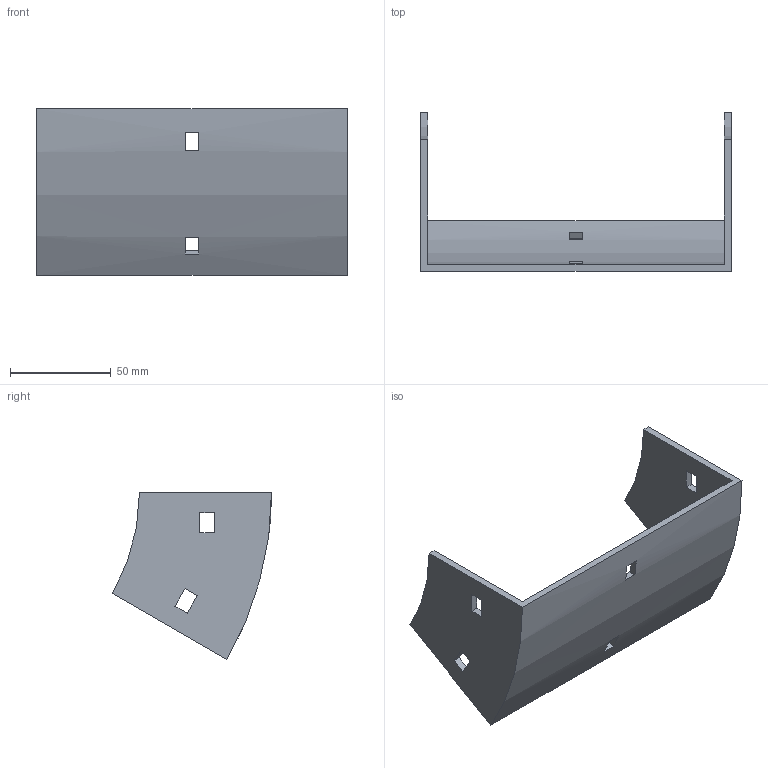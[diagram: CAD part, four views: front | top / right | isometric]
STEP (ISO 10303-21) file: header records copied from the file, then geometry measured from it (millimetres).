
FILE_DESCRIPTION (( 'STEP AP214' ), '1' );
FILE_NAME ('32B1H150.step', '2025-02-21T09:44:00', ( '' ), ( '' ), 'SwSTEP 2.0', 'SolidWorks 2023', '' );
FILE_SCHEMA (( 'AUTOMOTIVE_DESIGN' ));
Length unit declared in the file: millimetre
Products named in the file (1): 32B1H150
Bounding box: 154 x 78.9 x 82.75 mm (x, y, z)
Volume: 74590.5 mm3; surface area: 45636.2 mm2
Topology: 1 solids, 1 shells, 34 faces, 96 edges, 64 vertices
Faces by surface type: plane 30, cylinder 4
Entity records: 1143 total; most frequent: CARTESIAN_POINT 195, ORIENTED_EDGE 192, DIRECTION 182, EDGE_CURVE 96, LINE 80, VECTOR 80, VERTEX_POINT 64, AXIS2_PLACEMENT_3D 51
